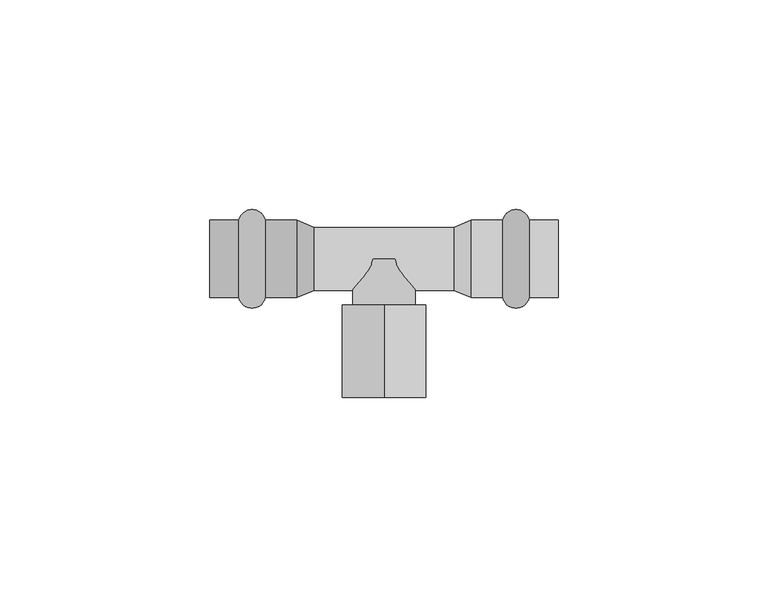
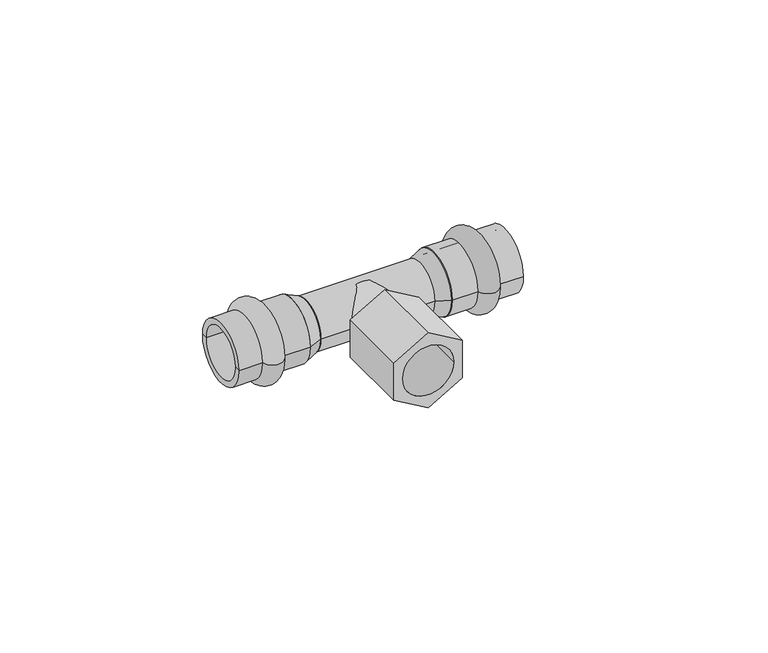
"""IFC4 building model written with IfcOpenShell, lengths in millimetres: pipe fitting geometry, VALTEC_VTi.932.I_Тройник с переходом на внутреннюю резьбу нержавеющая сталь : VTi.932.I."""

from ifc_helpers import new_model, si_unit, point, frame, origin, origin_2d, place, context, project, spatial, polyline, circle_curve, ellipse_curve, trimmed, segment, composite_curve, outline, extrude, source, transform, mapped, element, save
from ifc_brep_helpers import plane_surface, cylinder_surface, revolved_surface, advanced_brep


def pipe_fitting_bdbfe75b(model_context):
    return source(origin(), model_context, "Body", "SolidModel", [
        advanced_brep(
        [(34.6122777, 9.25, 0.0), (34.6122777, -9.25, 0.0), (28.2877223, -9.25, 0.0), (28.2877223, 9.25, 0.0), (41.5, 9.25, 0.0), (41.5, -9.25, 0.0), (41.5, 7.5, 0.0), (41.5, -7.5, 0.0), (20.75, 7.5, 0.0), (20.75, -7.5, 0.0), (20.75, 9.25, 0.0), (20.75, -9.25, 0.0)],
        [
            (0, 1, circle_curve(frame((34.6122777, 0.0, 0.0), z_axis=(-1.0, 0.0, 0.0), x_axis=(0.0, -1.0, 0.0)), 9.25)),
            (1, 2, circle_curve(frame((31.45, -8.5, 0.0), z_axis=(0.0, 0.0, -1.0), x_axis=(-1.0, 0.0, 0.0)), 3.25)),
            (2, 3, circle_curve(frame((28.2877223, 0.0, 0.0), z_axis=(1.0, 0.0, 0.0), x_axis=(0.0, -1.0, 0.0)), 9.25)),
            (3, 0, circle_curve(frame((31.45, 8.5, 0.0), z_axis=(0.0, 0.0, -1.0), x_axis=(-1.0, 0.0, 0.0)), 3.25)),
            (1, 0, circle_curve(frame((34.6122777, 0.0, 0.0), z_axis=(-1.0, 0.0, 0.0), x_axis=(0.0, -1.0, 0.0)), 9.25)),
            (3, 2, circle_curve(frame((28.2877223, 0.0, 0.0), z_axis=(1.0, 0.0, 0.0), x_axis=(0.0, -1.0, 0.0)), 9.25)),
            (4, 5, circle_curve(frame((41.5, 0.0, 0.0), z_axis=(-1.0, 0.0, 0.0), x_axis=(0.0, -1.0, 0.0)), 9.25)),
            (5, 1),
            (0, 4),
            (5, 4, circle_curve(frame((41.5, 0.0, 0.0), z_axis=(-1.0, 0.0, 0.0), x_axis=(0.0, -1.0, 0.0)), 9.25)),
            (6, 7, circle_curve(frame((41.5, 0.0, 0.0), z_axis=(-1.0, 0.0, 0.0), x_axis=(0.0, -1.0, 0.0)), 7.5)),
            (7, 5),
            (4, 6),
            (7, 6, circle_curve(frame((41.5, 0.0, 0.0), z_axis=(-1.0, 0.0, 0.0), x_axis=(0.0, -1.0, 0.0)), 7.5)),
            (8, 9, circle_curve(frame((20.75, 0.0, 0.0), z_axis=(-1.0, 0.0, 0.0), x_axis=(0.0, -1.0, 0.0)), 7.5)),
            (9, 7),
            (6, 8),
            (9, 8, circle_curve(frame((20.75, 0.0, 0.0), z_axis=(-1.0, 0.0, 0.0), x_axis=(0.0, -1.0, 0.0)), 7.5)),
            (10, 11, circle_curve(frame((20.75, 0.0, 0.0), z_axis=(-1.0, 0.0, 0.0), x_axis=(0.0, -1.0, 0.0)), 9.25)),
            (11, 9),
            (8, 10),
            (11, 10, circle_curve(frame((20.75, 0.0, 0.0), z_axis=(-1.0, 0.0, 0.0), x_axis=(0.0, -1.0, 0.0)), 9.25)),
            (2, 11),
            (10, 3),
        ],
        [
            revolved_surface(trimmed(ellipse_curve(frame((31.45, -8.5, 0.0), z_axis=(0.0, 0.0, 1.0), x_axis=(-1.0, 0.0, 0.0)), 3.25, 3.25), [point((28.2877223, -9.25, 0.0))], [point((34.6122777, -9.25, 0.0))], True, "CARTESIAN"), (45.0364426, 0.0, 0.0), (1.0, 0.0, 0.0)),
            cylinder_surface(frame((45.0364426, 0.0, 0.0), z_axis=(1.0, 0.0, 0.0), x_axis=(0.0, -1.0, 0.0)), 9.25),
            plane_surface(frame((41.5, 0.0, 0.0), z_axis=(1.0, 0.0, 0.0), x_axis=(0.0, -1.0, 0.0))),
            revolved_surface(polyline([(41.5, -7.5, 0.0), (20.75, -7.5, 0.0)]), (45.0364426, 0.0, 0.0), (1.0, 0.0, 0.0)),
            plane_surface(frame((20.75, 0.0, 0.0), z_axis=(-1.0, 0.0, 0.0), x_axis=(0.0, -1.0, 0.0))),
        ],
        [
            (0, [[1, 2, 3, 4]]),
            (0, [[5, -4, 6, -2]]),
            (1, [[7, 8, -1, 9]]),
            (1, [[10, -9, -5, -8]]),
            (2, [[11, 12, -7, 13]]),
            (2, [[14, -13, -10, -12]]),
            (3, [[15, 16, -11, 17]]),
            (3, [[18, -17, -14, -16]]),
            (4, [[19, 20, -15, 21]]),
            (4, [[22, -21, -18, -20]]),
            (1, [[-3, 23, -19, 24]]),
            (1, [[-6, -24, -22, -23]]),
        ],
    ),
        advanced_brep(
        [(-34.6122777, -9.25, 0.0), (-34.6122777, 9.25, 0.0), (-28.2877223, 9.25, 0.0), (-28.2877223, -9.25, 0.0), (-41.5, -9.25, 0.0), (-41.5, 9.25, 0.0), (-41.5, -7.5, 0.0), (-41.5, 7.5, 0.0), (-20.75, -7.5, 0.0), (-20.75, 7.5, 0.0), (-20.75, -9.25, 0.0), (-20.75, 9.25, 0.0)],
        [
            (0, 1, circle_curve(frame((-34.6122777, 0.0, 0.0), z_axis=(1.0, 0.0, 0.0), x_axis=(0.0, 1.0, 0.0)), 9.25)),
            (1, 2, circle_curve(frame((-31.45, 8.5, 0.0), z_axis=(0.0, 0.0, -1.0), x_axis=(1.0, 0.0, 0.0)), 3.25)),
            (2, 3, circle_curve(frame((-28.2877223, 0.0, 0.0), z_axis=(-1.0, 0.0, 0.0), x_axis=(0.0, 1.0, 0.0)), 9.25)),
            (3, 0, circle_curve(frame((-31.45, -8.5, 0.0), z_axis=(0.0, 0.0, -1.0), x_axis=(1.0, 0.0, 0.0)), 3.25)),
            (1, 0, circle_curve(frame((-34.6122777, 0.0, 0.0), z_axis=(1.0, 0.0, 0.0), x_axis=(0.0, 1.0, 0.0)), 9.25)),
            (3, 2, circle_curve(frame((-28.2877223, 0.0, 0.0), z_axis=(-1.0, 0.0, 0.0), x_axis=(0.0, 1.0, 0.0)), 9.25)),
            (4, 5, circle_curve(frame((-41.5, 0.0, 0.0), z_axis=(1.0, 0.0, 0.0), x_axis=(0.0, 1.0, 0.0)), 9.25)),
            (5, 1),
            (0, 4),
            (5, 4, circle_curve(frame((-41.5, 0.0, 0.0), z_axis=(1.0, 0.0, 0.0), x_axis=(0.0, 1.0, 0.0)), 9.25)),
            (6, 7, circle_curve(frame((-41.5, 0.0, 0.0), z_axis=(1.0, 0.0, 0.0), x_axis=(0.0, 1.0, 0.0)), 7.5)),
            (7, 5),
            (4, 6),
            (7, 6, circle_curve(frame((-41.5, 0.0, 0.0), z_axis=(1.0, 0.0, 0.0), x_axis=(0.0, 1.0, 0.0)), 7.5)),
            (8, 9, circle_curve(frame((-20.75, 0.0, 0.0), z_axis=(1.0, 0.0, 0.0), x_axis=(0.0, 1.0, 0.0)), 7.5)),
            (9, 7),
            (6, 8),
            (9, 8, circle_curve(frame((-20.75, 0.0, 0.0), z_axis=(1.0, 0.0, 0.0), x_axis=(0.0, 1.0, 0.0)), 7.5)),
            (10, 11, circle_curve(frame((-20.75, 0.0, 0.0), z_axis=(1.0, 0.0, 0.0), x_axis=(0.0, 1.0, 0.0)), 9.25)),
            (11, 9),
            (8, 10),
            (11, 10, circle_curve(frame((-20.75, 0.0, 0.0), z_axis=(1.0, 0.0, 0.0), x_axis=(0.0, 1.0, 0.0)), 9.25)),
            (2, 11),
            (10, 3),
        ],
        [
            revolved_surface(trimmed(ellipse_curve(frame((-31.45, 8.5, 0.0), z_axis=(0.0, 0.0, 1.0), x_axis=(1.0, 0.0, 0.0)), 3.25, 3.25), [point((-28.2877223, 9.25, 0.0))], [point((-34.6122777, 9.25, 0.0))], True, "CARTESIAN"), (-45.0364426, 0.0, 0.0), (-1.0, 0.0, 0.0)),
            cylinder_surface(frame((-45.0364426, 0.0, 0.0), z_axis=(-1.0, 0.0, 0.0), x_axis=(0.0, 1.0, 0.0)), 9.25),
            plane_surface(frame((-41.5, 0.0, 0.0), z_axis=(-1.0, 0.0, 0.0), x_axis=(0.0, 1.0, 0.0))),
            revolved_surface(polyline([(-41.5, 7.5, 0.0), (-20.75, 7.5, 0.0)]), (-45.0364426, 0.0, 0.0), (-1.0, 0.0, 0.0)),
            plane_surface(frame((-20.75, 0.0, 0.0), z_axis=(1.0, 0.0, 0.0), x_axis=(0.0, 1.0, 0.0))),
        ],
        [
            (0, [[1, 2, 3, 4]]),
            (0, [[5, -4, 6, -2]]),
            (1, [[7, 8, -1, 9]]),
            (1, [[10, -9, -5, -8]]),
            (2, [[11, 12, -7, 13]]),
            (2, [[14, -13, -10, -12]]),
            (3, [[15, 16, -11, 17]]),
            (3, [[18, -17, -14, -16]]),
            (4, [[19, 20, -15, 21]]),
            (4, [[22, -21, -18, -20]]),
            (1, [[-3, 23, -19, 24]]),
            (1, [[-6, -24, -22, -23]]),
        ],
    ),
        extrude(outline(polyline([(11.5470054, 0.0), (5.7735027, -10.0), (-5.7735027, -10.0), (-11.5470054, 0.0), (-5.7735027, 10.0), (5.7735027, 10.0), (11.5470054, 0.0)]), holes=[composite_curve([segment(trimmed(circle_curve(origin_2d(), 7.5), [point((0.0, -7.5))], [point((0.0, 7.5))], True, "CARTESIAN"), True, "CONTINUOUS"), segment(trimmed(circle_curve(origin_2d(), 7.5), [point((0.0, 7.5))], [point((0.0, -7.5))], True, "CARTESIAN"), True, "CONTINUOUS")], self_intersect=False)]), frame((0.0, -33.0, 0.0), z_axis=(0.0, 1.0, 0.0), x_axis=(0.0, 0.0, 1.0)), (0.0, 0.0, 1.0), 22.0),
        extrude(outline(composite_curve([segment(trimmed(circle_curve(origin_2d(), 7.5), [point((0.0, -7.5))], [point((0.0, 7.5))], False, "CARTESIAN"), True, "CONTINUOUS"), segment(trimmed(circle_curve(origin_2d(), 7.5), [point((0.0, 7.5))], [point((0.0, -7.5))], False, "CARTESIAN"), True, "CONTINUOUS")], self_intersect=False)), frame((0.0, -11.0, 0.0), z_axis=(0.0, 1.0, 0.0), x_axis=(0.0, 0.0, 1.0)), (0.0, 0.0, 1.0), 11.0),
        extrude(outline(composite_curve([segment(trimmed(circle_curve(origin_2d(), 7.5), [point((-7.5, 0.0))], [point((7.5, 0.0))], False, "CARTESIAN"), True, "CONTINUOUS"), segment(trimmed(circle_curve(origin_2d(), 7.5), [point((7.5, 0.0))], [point((-7.5, 0.0))], False, "CARTESIAN"), True, "CONTINUOUS")], self_intersect=False)), frame((-16.6, 0.0, 0.0), z_axis=(1.0, 0.0, 0.0), x_axis=(0.0, 1.0, 0.0)), (0.0, 0.0, 1.0), 33.2),
        advanced_brep(
        [(20.75, -9.25, 0.0), (20.75, 9.25, 0.0), (16.6, -7.5, 0.0), (16.6, 7.5, 0.0)],
        [
            (0, 1, circle_curve(frame((20.75, 0.0, 0.0), z_axis=(1.0, 0.0, 0.0), x_axis=(0.0, -1.0, 0.0)), 9.25)),
            (1, 0, circle_curve(frame((20.75, 0.0, 0.0), z_axis=(1.0, 0.0, 0.0), x_axis=(0.0, 1.0, 0.0)), 9.25)),
            (2, 3, circle_curve(frame((16.6, 0.0, 0.0), z_axis=(-1.0, 0.0, 0.0), x_axis=(0.0, 1.0, 0.0)), 7.5)),
            (3, 2, circle_curve(frame((16.6, 0.0, 0.0), z_axis=(-1.0, 0.0, 0.0), x_axis=(0.0, -1.0, 0.0)), 7.5)),
            (3, 1),
            (0, 2),
        ],
        [
            plane_surface(frame((20.75, 0.0, 0.0), z_axis=(1.0, 0.0, 0.0), x_axis=(0.0, 0.0, 1.0))),
            plane_surface(frame((16.6, 0.0, 0.0), z_axis=(-1.0, 0.0, 0.0), x_axis=(0.0, 0.0, 1.0))),
            revolved_surface(polyline([(16.6, 7.500000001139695, 0.0), (20.75, 9.25, 0.0)]), (-1.1857143, 0.0, 0.0), (1.0, 0.0, 0.0)),
            revolved_surface(polyline([(16.6, -7.500000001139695, 0.0), (20.75, -9.25, 0.0)]), (-1.1857143, 0.0, 0.0), (1.0, 0.0, 0.0)),
        ],
        [
            (0, [[1, 2]]),
            (1, [[3, 4]]),
            (2, [[-4, 5, -1, 6]]),
            (3, [[-3, -6, -2, -5]]),
        ],
    ),
        advanced_brep(
        [(-20.75, -9.25, 0.0), (-20.75, 9.25, 0.0), (-16.6, -7.5, 0.0), (-16.6, 7.5, 0.0)],
        [
            (0, 1, circle_curve(frame((-20.75, 0.0, 0.0), z_axis=(-1.0, 0.0, 0.0), x_axis=(0.0, -1.0, 0.0)), 9.25)),
            (1, 0, circle_curve(frame((-20.75, 0.0, 0.0), z_axis=(-1.0, 0.0, 0.0), x_axis=(0.0, 1.0, 0.0)), 9.25)),
            (2, 3, circle_curve(frame((-16.6, 0.0, 0.0), z_axis=(1.0, 0.0, 0.0), x_axis=(0.0, 1.0, 0.0)), 7.5)),
            (3, 2, circle_curve(frame((-16.6, 0.0, 0.0), z_axis=(1.0, 0.0, 0.0), x_axis=(0.0, -1.0, 0.0)), 7.5)),
            (2, 0),
            (1, 3),
        ],
        [
            plane_surface(frame((-20.75, 0.0, 0.0), z_axis=(-1.0, 0.0, 0.0), x_axis=(0.0, 0.0, -1.0))),
            plane_surface(frame((-16.6, 0.0, 0.0), z_axis=(1.0, 0.0, 0.0), x_axis=(0.0, 0.0, -1.0))),
            revolved_surface(polyline([(-16.6, -7.500000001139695, 0.0), (-20.75, -9.25, 0.0)]), (1.1857143, 0.0, 0.0), (-1.0, 0.0, 0.0)),
            revolved_surface(polyline([(-16.6, 7.500000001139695, 0.0), (-20.75, 9.25, 0.0)]), (1.1857143, 0.0, 0.0), (-1.0, 0.0, 0.0)),
        ],
        [
            (0, [[1, 2]]),
            (1, [[3, 4]]),
            (2, [[-3, 5, -2, 6]]),
            (3, [[-4, -6, -1, -5]]),
        ],
    ),
    ])


if __name__ == "__main__":
    model = new_model("IFC4")
    model_context = context("Model", 3, world=origin())
    ifc_project = project(units=[si_unit("LENGTHUNIT", "METRE", prefix="MILLI")], contexts=[model_context])
    site = spatial("IfcSite", under=ifc_project)
    building = spatial("IfcBuilding", under=site)
    placement = place(None, origin())
    pipe_fitting_shape = pipe_fitting_bdbfe75b(model_context)
    element("IfcPipeFitting", 1, ObjectType="VALTEC_VTi.932.I_Тройник с переходом на внутреннюю резьбу нержавеющая сталь : VTi.932.I", at=placement, inside=building, context=model_context, shape_type="MappedRepresentation", body=[
        mapped(pipe_fitting_shape, transform((0.0, 0.0, 0.0), x_axis=(1.0, 0.0, 0.0), y_axis=(0.0, 1.0, 0.0), z_axis=(0.0, 0.0, 1.0))),
    ])
    save(model, "model.ifc")
